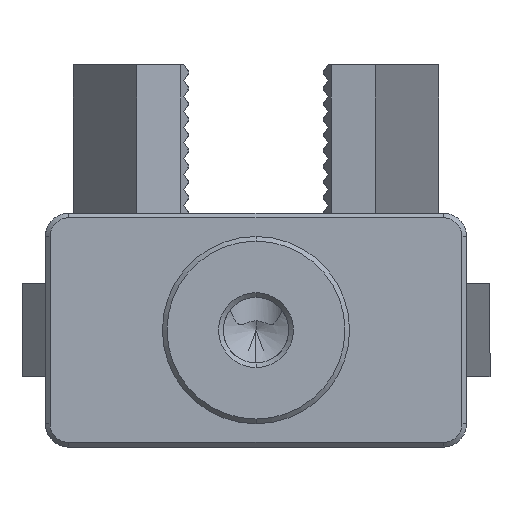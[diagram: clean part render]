
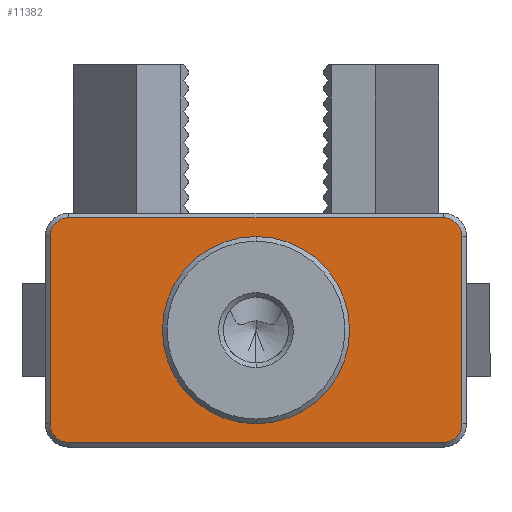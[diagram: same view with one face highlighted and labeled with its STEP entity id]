
A CAD part, front view. The second image highlights one B-rep face of the part: STEP entity #11382.
In plain terms, the highlighted planar face has unit normal (0, -1, 0).
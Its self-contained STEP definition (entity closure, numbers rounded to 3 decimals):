
#1301 = DIRECTION ( 'NONE',  ( 0., 0., 1. ) ) ;
#2489 = CARTESIAN_POINT ( 'NONE',  ( -13.2, -12., -13.5 ) ) ;
#3003 = DIRECTION ( 'NONE',  ( 1., 0., 0. ) ) ;
#3823 = ORIENTED_EDGE ( 'NONE', *, *, #26497, .T. ) ;
#5275 = PLANE ( 'NONE',  #24984 ) ;
#7481 = DIRECTION ( 'NONE',  ( 0., 1., 0. ) ) ;
#7976 = CARTESIAN_POINT ( 'NONE',  ( 12., -12., -14.7 ) ) ;
#8020 = ORIENTED_EDGE ( 'NONE', *, *, #26446, .F. ) ;
#9018 = CARTESIAN_POINT ( 'NONE',  ( -13.2, -12., -1.5 ) ) ;
#10329 = CARTESIAN_POINT ( 'NONE',  ( 0., -12., -7.5 ) ) ;
#10401 = ORIENTED_EDGE ( 'NONE', *, *, #74272, .T. ) ;
#11382 = ADVANCED_FACE ( 'NONE', ( #48551, #28698 ), #5275, .T. ) ;
#13494 = VECTOR ( 'NONE', #37998, 1000. ) ;
#15640 = CARTESIAN_POINT ( 'NONE',  ( 12., -12., -0.3 ) ) ;
#18486 = CARTESIAN_POINT ( 'NONE',  ( 0., -12., -13.5 ) ) ;
#18870 = DIRECTION ( 'NONE',  ( 0., 0., 1. ) ) ;
#20136 = CARTESIAN_POINT ( 'NONE',  ( 0., -12., -1.5 ) ) ;
#20250 = EDGE_CURVE ( 'NONE', #108712, #21361, #58973, .T. ) ;
#20553 = DIRECTION ( 'NONE',  ( 0., 0., 1. ) ) ;
#21041 = CIRCLE ( 'NONE', #49035, 1.2 ) ;
#21361 = VERTEX_POINT ( 'NONE', #18486 ) ;
#24984 = AXIS2_PLACEMENT_3D ( 'NONE', #98018, #106505, #56165 ) ;
#26446 = EDGE_CURVE ( 'NONE', #103184, #102873, #105467, .T. ) ;
#26497 = EDGE_CURVE ( 'NONE', #103184, #107098, #30390, .T. ) ;
#28338 = VERTEX_POINT ( 'NONE', #67566 ) ;
#28698 = FACE_OUTER_BOUND ( 'NONE', #94557, .T. ) ;
#30390 = LINE ( 'NONE', #103894, #75080 ) ;
#30448 = DIRECTION ( 'NONE',  ( -1., 0., 0. ) ) ;
#30908 = VECTOR ( 'NONE', #30448, 1000. ) ;
#35816 = DIRECTION ( 'NONE',  ( 0., 1., 0. ) ) ;
#35870 = LINE ( 'NONE', #54597, #13494 ) ;
#37998 = DIRECTION ( 'NONE',  ( 0., 0., -1. ) ) ;
#38467 = EDGE_CURVE ( 'NONE', #100334, #103293, #21041, .T. ) ;
#40438 = VERTEX_POINT ( 'NONE', #15640 ) ;
#41849 = LINE ( 'NONE', #70946, #86491 ) ;
#42294 = CARTESIAN_POINT ( 'NONE',  ( -12., -12., -0.3 ) ) ;
#43848 = DIRECTION ( 'NONE',  ( 0., -1., 0. ) ) ;
#46012 = CARTESIAN_POINT ( 'NONE',  ( 0., -12., -7.5 ) ) ;
#46847 = ORIENTED_EDGE ( 'NONE', *, *, #38467, .F. ) ;
#48551 = FACE_BOUND ( 'NONE', #70239, .T. ) ;
#49035 = AXIS2_PLACEMENT_3D ( 'NONE', #102202, #51875, #1301 ) ;
#50042 = VERTEX_POINT ( 'NONE', #82419 ) ;
#51228 = EDGE_CURVE ( 'NONE', #50042, #107098, #102466, .T. ) ;
#51310 = AXIS2_PLACEMENT_3D ( 'NONE', #58048, #7481, #66426 ) ;
#51875 = DIRECTION ( 'NONE',  ( 0., 1., 0. ) ) ;
#53401 = LINE ( 'NONE', #55580, #30908 ) ;
#54481 = DIRECTION ( 'NONE',  ( 0., 0., 1. ) ) ;
#54597 = CARTESIAN_POINT ( 'NONE',  ( -13.2, -12., 0. ) ) ;
#55580 = CARTESIAN_POINT ( 'NONE',  ( 12.5, -12., -0.3 ) ) ;
#56165 = DIRECTION ( 'NONE',  ( 0., 0., -1. ) ) ;
#56262 = EDGE_CURVE ( 'NONE', #21361, #108712, #71008, .T. ) ;
#58048 = CARTESIAN_POINT ( 'NONE',  ( 12., -12., -13.5 ) ) ;
#58973 = CIRCLE ( 'NONE', #99669, 6. ) ;
#63051 = AXIS2_PLACEMENT_3D ( 'NONE', #86174, #35816, #94713 ) ;
#66426 = DIRECTION ( 'NONE',  ( 0., 0., 1. ) ) ;
#67566 = CARTESIAN_POINT ( 'NONE',  ( 13.2, -12., -1.5 ) ) ;
#68162 = ORIENTED_EDGE ( 'NONE', *, *, #56262, .T. ) ;
#69263 = DIRECTION ( 'NONE',  ( 0., 1., 0. ) ) ;
#70239 = EDGE_LOOP ( 'NONE', ( #90831, #68162 ) ) ;
#70936 = AXIS2_PLACEMENT_3D ( 'NONE', #10329, #69263, #18870 ) ;
#70946 = CARTESIAN_POINT ( 'NONE',  ( 13.2, -12., 0. ) ) ;
#71008 = CIRCLE ( 'NONE', #70936, 6. ) ;
#73341 = ORIENTED_EDGE ( 'NONE', *, *, #81384, .T. ) ;
#73825 = CARTESIAN_POINT ( 'NONE',  ( -12., -12., -14.7 ) ) ;
#74272 = EDGE_CURVE ( 'NONE', #100334, #102873, #35870, .T. ) ;
#75080 = VECTOR ( 'NONE', #3003, 1000. ) ;
#80727 = ORIENTED_EDGE ( 'NONE', *, *, #99797, .T. ) ;
#81384 = EDGE_CURVE ( 'NONE', #50042, #28338, #41849, .T. ) ;
#82419 = CARTESIAN_POINT ( 'NONE',  ( 13.2, -12., -13.5 ) ) ;
#86174 = CARTESIAN_POINT ( 'NONE',  ( -12., -12., -13.5 ) ) ;
#86491 = VECTOR ( 'NONE', #20553, 1000. ) ;
#86850 = ORIENTED_EDGE ( 'NONE', *, *, #98596, .T. ) ;
#90831 = ORIENTED_EDGE ( 'NONE', *, *, #20250, .T. ) ;
#94184 = CARTESIAN_POINT ( 'NONE',  ( 12., -12., -1.5 ) ) ;
#94557 = EDGE_LOOP ( 'NONE', ( #8020, #3823, #103284, #73341, #80727, #86850, #46847, #10401 ) ) ;
#94713 = DIRECTION ( 'NONE',  ( 0., 0., 1. ) ) ;
#96089 = CIRCLE ( 'NONE', #106218, 1.2 ) ;
#98018 = CARTESIAN_POINT ( 'NONE',  ( 12.5, -12., 0. ) ) ;
#98596 = EDGE_CURVE ( 'NONE', #40438, #103293, #53401, .T. ) ;
#99669 = AXIS2_PLACEMENT_3D ( 'NONE', #46012, #104811, #54481 ) ;
#99797 = EDGE_CURVE ( 'NONE', #28338, #40438, #96089, .T. ) ;
#100334 = VERTEX_POINT ( 'NONE', #9018 ) ;
#102202 = CARTESIAN_POINT ( 'NONE',  ( -12., -12., -1.5 ) ) ;
#102466 = CIRCLE ( 'NONE', #51310, 1.2 ) ;
#102663 = DIRECTION ( 'NONE',  ( 0., 0., 1. ) ) ;
#102873 = VERTEX_POINT ( 'NONE', #2489 ) ;
#103184 = VERTEX_POINT ( 'NONE', #73825 ) ;
#103284 = ORIENTED_EDGE ( 'NONE', *, *, #51228, .F. ) ;
#103293 = VERTEX_POINT ( 'NONE', #42294 ) ;
#103894 = CARTESIAN_POINT ( 'NONE',  ( 12.5, -12., -14.7 ) ) ;
#104811 = DIRECTION ( 'NONE',  ( 0., 1., 0. ) ) ;
#105467 = CIRCLE ( 'NONE', #63051, 1.2 ) ;
#106218 = AXIS2_PLACEMENT_3D ( 'NONE', #94184, #43848, #102663 ) ;
#106505 = DIRECTION ( 'NONE',  ( 0., -1., 0. ) ) ;
#107098 = VERTEX_POINT ( 'NONE', #7976 ) ;
#108712 = VERTEX_POINT ( 'NONE', #20136 ) ;
